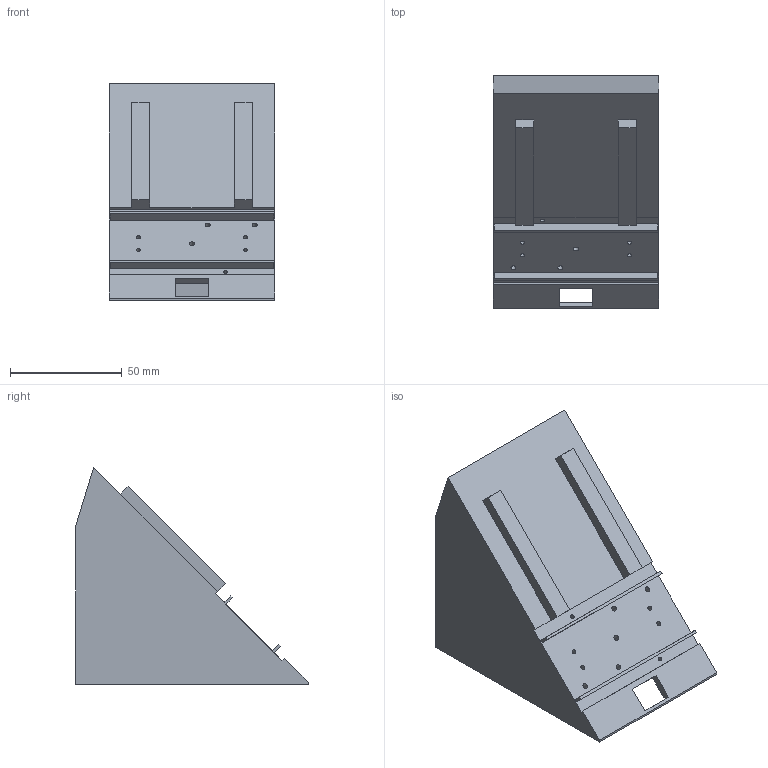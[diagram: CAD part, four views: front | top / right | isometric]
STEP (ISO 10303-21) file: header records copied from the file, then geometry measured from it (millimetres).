
FILE_DESCRIPTION(('Open CASCADE Model'),'2;1');
FILE_NAME('Open CASCADE Shape Model','2026-11-24T20:33:36',('Author'),( 'Open CASCADE'),'Open CASCADE STEP processor 7.8','Open CASCADE 7.8' ,'Unknown');
FILE_SCHEMA(('AUTOMOTIVE_DESIGN { 1 0 10303 214 1 1 1 1 }'));
Length unit declared in the file: millimetre
Products named in the file (1): Open CASCADE STEP translator 7.8 7
Bounding box: 74 x 104 x 96.95 mm (x, y, z)
Volume: 96647 mm3; surface area: 58455.2 mm2
Topology: 1 solids, 1 shells, 142 faces, 369 edges, 246 vertices
Faces by surface type: plane 121, cylinder 21
Full cylindrical faces by diameter (mm): 1.7 x2, 1.9 x4, 2.3 x4, 2.4 x1, 2.7 x4, 8.3 x2
Entity records: 9156 total; most frequent: CARTESIAN_POINT 1520, DIRECTION 1459, LINE 965, VECTOR 965, ORIENTED_EDGE 738, PCURVE 738, DEFINITIONAL_REPRESENTATION 738, EDGE_CURVE 369
